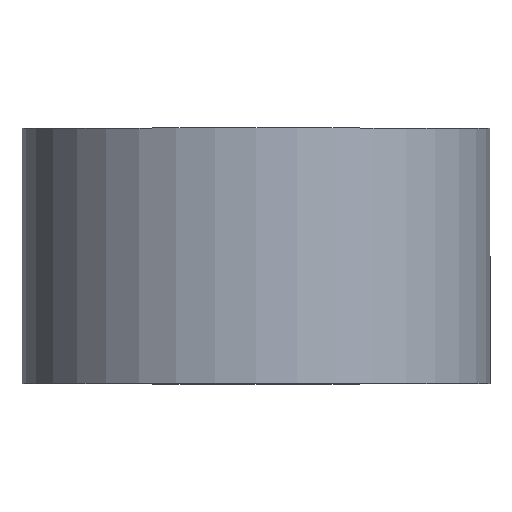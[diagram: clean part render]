
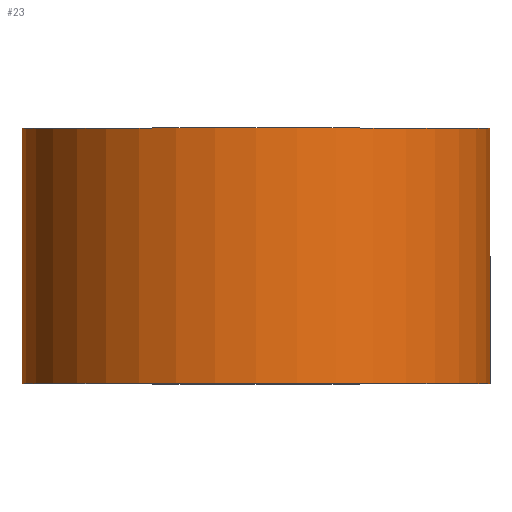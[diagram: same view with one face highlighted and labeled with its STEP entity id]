
A CAD part, top view. The second image highlights one B-rep face of the part: STEP entity #23.
In plain terms, the highlighted cylindrical face has radius 27.5 mm (diameter 55 mm), a partial arc.
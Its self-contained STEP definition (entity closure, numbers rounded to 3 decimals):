
#2 = CARTESIAN_POINT ( 'NONE',  ( 27.5, 0., 0. ) ) ;
#3 = VECTOR ( 'NONE', #190, 1000. ) ;
#14 = VERTEX_POINT ( 'NONE', #96 ) ;
#23 = ADVANCED_FACE ( 'NONE', ( #256 ), #261, .T. ) ;
#36 = AXIS2_PLACEMENT_3D ( 'NONE', #141, #237, #47 ) ;
#38 = VECTOR ( 'NONE', #91, 1000. ) ;
#41 = DIRECTION ( 'NONE',  ( 0., 1., 0. ) ) ;
#47 = DIRECTION ( 'NONE',  ( -1., 0., 0. ) ) ;
#58 = ORIENTED_EDGE ( 'NONE', *, *, #226, .T. ) ;
#62 = EDGE_CURVE ( 'NONE', #191, #285, #199, .T. ) ;
#64 = LINE ( 'NONE', #130, #3 ) ;
#67 = CARTESIAN_POINT ( 'NONE',  ( -27.5, 0., 0. ) ) ;
#76 = EDGE_CURVE ( 'NONE', #191, #123, #64, .T. ) ;
#91 = DIRECTION ( 'NONE',  ( 0., 1., 0. ) ) ;
#96 = CARTESIAN_POINT ( 'NONE',  ( 27.5, 30., 0. ) ) ;
#103 = LINE ( 'NONE', #232, #38 ) ;
#115 = DIRECTION ( 'NONE',  ( 0., 1., 0. ) ) ;
#119 = ORIENTED_EDGE ( 'NONE', *, *, #171, .F. ) ;
#123 = VERTEX_POINT ( 'NONE', #267 ) ;
#129 = AXIS2_PLACEMENT_3D ( 'NONE', #231, #115, #236 ) ;
#130 = CARTESIAN_POINT ( 'NONE',  ( -27.5, 0., 0. ) ) ;
#141 = CARTESIAN_POINT ( 'NONE',  ( 0., 0., 0. ) ) ;
#162 = DIRECTION ( 'NONE',  ( -1., 0., 0. ) ) ;
#163 = ORIENTED_EDGE ( 'NONE', *, *, #76, .F. ) ;
#171 = EDGE_CURVE ( 'NONE', #123, #14, #197, .T. ) ;
#180 = CARTESIAN_POINT ( 'NONE',  ( 0., 30., 0. ) ) ;
#181 = ORIENTED_EDGE ( 'NONE', *, *, #62, .T. ) ;
#190 = DIRECTION ( 'NONE',  ( 0., 1., 0. ) ) ;
#191 = VERTEX_POINT ( 'NONE', #67 ) ;
#194 = EDGE_LOOP ( 'NONE', ( #181, #58, #119, #163 ) ) ;
#197 = CIRCLE ( 'NONE', #211, 27.5 ) ;
#199 = CIRCLE ( 'NONE', #129, 27.5 ) ;
#211 = AXIS2_PLACEMENT_3D ( 'NONE', #180, #41, #162 ) ;
#226 = EDGE_CURVE ( 'NONE', #285, #14, #103, .T. ) ;
#231 = CARTESIAN_POINT ( 'NONE',  ( 0., 0., 0. ) ) ;
#232 = CARTESIAN_POINT ( 'NONE',  ( 27.5, 0., 0. ) ) ;
#236 = DIRECTION ( 'NONE',  ( -1., 0., 0. ) ) ;
#237 = DIRECTION ( 'NONE',  ( 0., 1., 0. ) ) ;
#256 = FACE_OUTER_BOUND ( 'NONE', #194, .T. ) ;
#261 = CYLINDRICAL_SURFACE ( 'NONE', #36, 27.5 ) ;
#267 = CARTESIAN_POINT ( 'NONE',  ( -27.5, 30., 0. ) ) ;
#285 = VERTEX_POINT ( 'NONE', #2 ) ;
